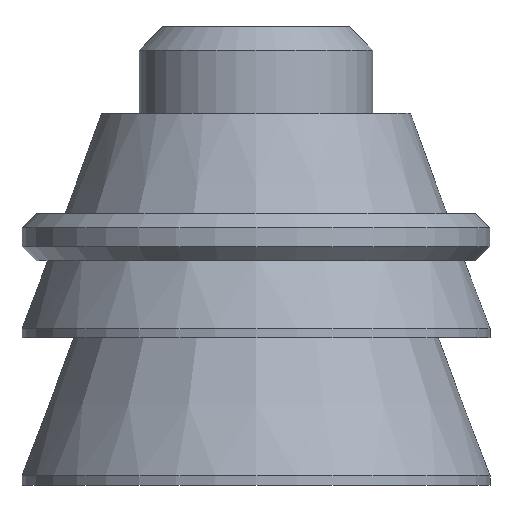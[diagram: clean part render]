
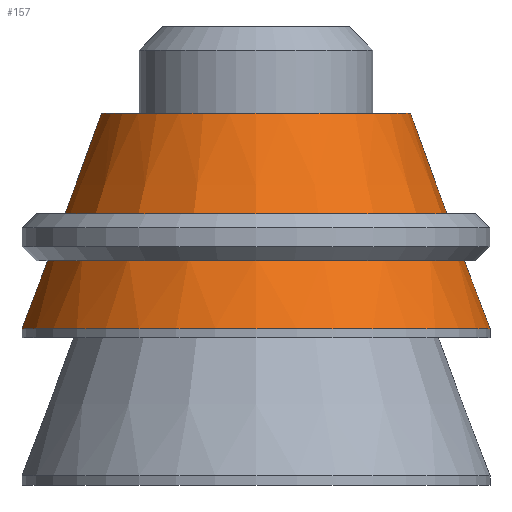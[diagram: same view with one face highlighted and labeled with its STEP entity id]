
A CAD part, left-side view. The second image highlights one B-rep face of the part: STEP entity #157.
In plain terms, the highlighted conical face has half-angle 20.283 degrees and reference radius 5 mm.
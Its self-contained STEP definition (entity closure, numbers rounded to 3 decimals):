
#157 = ADVANCED_FACE( '', ( #359, #360 ), #361, .T. );
#359 = FACE_BOUND( '', #627, .T. );
#360 = FACE_OUTER_BOUND( '', #628, .T. );
#361 = CONICAL_SURFACE( '', #629, 5., 0.354 );
#627 = EDGE_LOOP( '', ( #1016 ) );
#628 = EDGE_LOOP( '', ( #1017 ) );
#629 = AXIS2_PLACEMENT_3D( '', #1018, #1019, #1020 );
#1016 = ORIENTED_EDGE( '', *, *, #1515, .T. );
#1017 = ORIENTED_EDGE( '', *, *, #1516, .F. );
#1018 = CARTESIAN_POINT( '', ( 0., 0., -2.2 ) );
#1019 = DIRECTION( '', ( 0., 0., -1. ) );
#1020 = DIRECTION( '', ( -1., 0., 0. ) );
#1515 = EDGE_CURVE( '', #1812, #1812, #1813, .T. );
#1516 = EDGE_CURVE( '', #1814, #1814, #1815, .T. );
#1812 = VERTEX_POINT( '', #2177 );
#1813 = CIRCLE( '', #2178, 3.3 );
#1814 = VERTEX_POINT( '', #2179 );
#1815 = CIRCLE( '', #2180, 5. );
#2177 = CARTESIAN_POINT( '', ( -3.3, 0., 2.4 ) );
#2178 = AXIS2_PLACEMENT_3D( '', #2548, #2549, #2550 );
#2179 = CARTESIAN_POINT( '', ( -5., 0., -2.2 ) );
#2180 = AXIS2_PLACEMENT_3D( '', #2551, #2552, #2553 );
#2548 = CARTESIAN_POINT( '', ( 0., 0., 2.4 ) );
#2549 = DIRECTION( '', ( 0., 0., -1. ) );
#2550 = DIRECTION( '', ( -1., 0., 0. ) );
#2551 = CARTESIAN_POINT( '', ( 0., 0., -2.2 ) );
#2552 = DIRECTION( '', ( 0., 0., -1. ) );
#2553 = DIRECTION( '', ( -1., 0., 0. ) );
